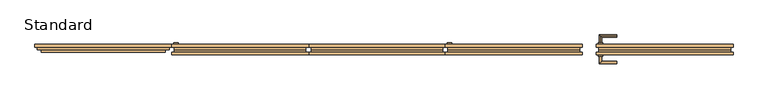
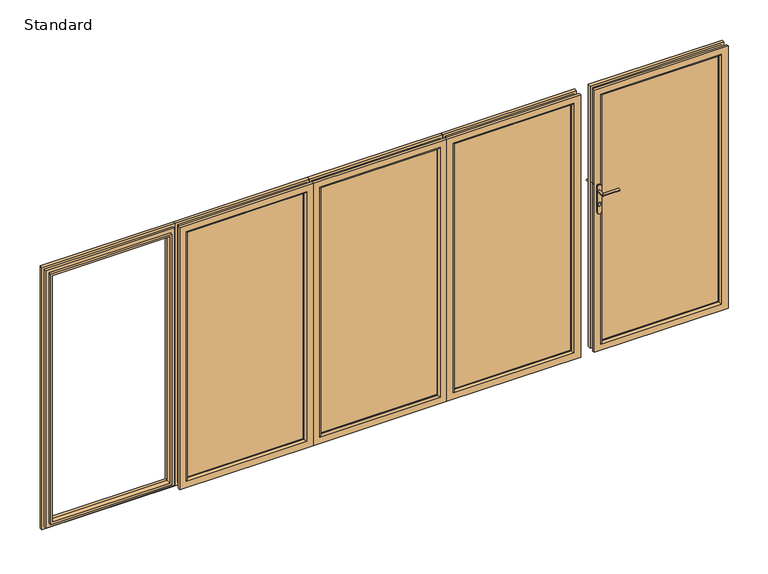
"""IFC4 building model written with IfcOpenShell, lengths in millimetres: door geometry, SMARTS_Visofold1000 : Standard."""

from ifc_helpers import new_model, si_unit, point, frame, frame_2d, origin, place, context, project, spatial, polyline, circle_curve, ellipse_curve, trimmed, segment, composite_curve, outline, extrude, faceted_brep, source, transform, mapped, element, save
from ifc_brep_helpers import plane_surface, cylinder_surface, advanced_brep


def standard_054a6557(model_context):
    return source(origin(), model_context, "Body", "SolidModel", [
        advanced_brep(
        [(1526.0, 75.0, 1232.5996413), (1526.0, 75.0, 1215.5996413), (1526.0, 130.0, 1215.5996413), (1526.0, 130.0, 1232.5996413), (1641.0, 130.0, 1232.5996413), (1641.0, 130.0, 1215.5996413)],
        [
            (0, 1, circle_curve(frame((1526.0, 75.0, 1224.0996413), z_axis=(0.0, -1.0, 0.0), x_axis=(0.0, 0.0, -1.0)), 8.5)),
            (1, 0, circle_curve(frame((1526.0, 75.0, 1224.0996413), z_axis=(0.0, -1.0, 0.0), x_axis=(0.0, 0.0, -1.0)), 8.5)),
            (1, 2),
            (2, 3, ellipse_curve(frame((1526.0, 130.0, 1224.0996413), z_axis=(-0.7071067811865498, -0.7071067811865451, 0.0), x_axis=(0.707106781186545, -0.70710678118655, 0.0)), 12.0208153, 8.5)),
            (3, 0),
            (3, 2, ellipse_curve(frame((1526.0, 130.0, 1224.0996413), z_axis=(-0.7071067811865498, -0.7071067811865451, 0.0), x_axis=(0.707106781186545, -0.70710678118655, 0.0)), 12.0208153, 8.5)),
            (4, 5, circle_curve(frame((1641.0, 130.0, 1224.0996413), z_axis=(1.0, 0.0, 0.0), x_axis=(0.0, 0.0, -1.0)), 8.5)),
            (5, 4, circle_curve(frame((1641.0, 130.0, 1224.0996413), z_axis=(1.0, 0.0, 0.0), x_axis=(0.0, 0.0, -1.0)), 8.5)),
            (2, 5),
            (4, 3),
        ],
        [
            plane_surface(frame((1526.0, 75.0, 1224.0996413), z_axis=(0.0, -1.0, 0.0), x_axis=(0.0, 0.0, -1.0))),
            cylinder_surface(frame((1526.0, 75.0, 1224.0996413), z_axis=(0.0, -1.0, 0.0), x_axis=(0.0, 0.0, -1.0)), 8.5),
            plane_surface(frame((1641.0, 130.0, 1224.0996413), z_axis=(1.0, 0.0, 0.0), x_axis=(0.0, 0.0, -1.0))),
            cylinder_surface(frame((1526.0, 130.0, 1224.0996413), z_axis=(-1.0, 0.0, 0.0), x_axis=(0.0, 0.0, -1.0)), 8.5),
        ],
        [
            (0, [[1, 2]]),
            (1, [[-2, 3, 4, 5]]),
            (1, [[-1, -5, 6, -3]]),
            (2, [[7, 8]]),
            (3, [[-4, 9, -7, 10]]),
            (3, [[-6, -10, -8, -9]]),
        ],
    ),
        extrude(outline(composite_curve([segment(trimmed(circle_curve(frame_2d((1258.0996413, 1526.0)), 16.0), [point((1258.0996413, 1542.0))], [point((1258.0996413, 1510.0))], False, "CARTESIAN"), True, "CONTINUOUS"), segment(polyline([(1258.0996413, 1510.0), (1070.0996413, 1510.0)]), True, "CONTINUOUS"), segment(trimmed(circle_curve(frame_2d((1070.0996413, 1526.0)), 16.0), [point((1070.0996413, 1510.0))], [point((1070.0996413, 1542.0))], False, "CARTESIAN"), True, "CONTINUOUS"), segment(polyline([(1070.0996413, 1542.0), (1258.0996413, 1542.0)]), True, "CONTINUOUS")], self_intersect=False)), frame((0.0, 75.0, 0.0), z_axis=(0.0, 1.0, 0.0), x_axis=(0.0, 0.0, 1.0)), (0.0, 0.0, 1.0), 10.0),
        advanced_brep(
        [(1534.5, 0.0, 1224.0996413), (1517.5, 0.0, 1224.0996413), (1534.5, -46.5, 1224.0996413), (1517.5, -63.5, 1224.0996413), (1641.0, -46.5, 1224.0996413), (1641.0, -63.5, 1224.0996413)],
        [
            (0, 1, circle_curve(frame((1526.0, 0.0, 1224.0996413), z_axis=(0.0, 1.0, 0.0), x_axis=(-1.0, 0.0, 0.0)), 8.5)),
            (1, 0, circle_curve(frame((1526.0, 0.0, 1224.0996413), z_axis=(0.0, 1.0, 0.0), x_axis=(-1.0, 0.0, 0.0)), 8.5)),
            (0, 2),
            (2, 3, ellipse_curve(frame((1526.0, -55.0, 1224.0996413), z_axis=(-0.7071067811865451, 0.7071067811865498, 0.0), x_axis=(0.7071067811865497, 0.7071067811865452, 0.0)), 12.0208153, 8.5)),
            (3, 1),
            (3, 2, ellipse_curve(frame((1526.0, -55.0, 1224.0996413), z_axis=(-0.7071067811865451, 0.7071067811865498, 0.0), x_axis=(0.7071067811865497, 0.7071067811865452, 0.0)), 12.0208153, 8.5)),
            (4, 5, circle_curve(frame((1641.0, -55.0, 1224.0996413), z_axis=(1.0, 0.0, 0.0), x_axis=(0.0, -1.0, 0.0)), 8.5)),
            (5, 4, circle_curve(frame((1641.0, -55.0, 1224.0996413), z_axis=(1.0, 0.0, 0.0), x_axis=(0.0, -1.0, 0.0)), 8.5)),
            (2, 4),
            (5, 3),
        ],
        [
            plane_surface(frame((1526.0, 0.0, 1224.0996413), z_axis=(0.0, 1.0, 0.0), x_axis=(0.0, 0.0, -1.0))),
            cylinder_surface(frame((1526.0, 0.0, 1224.0996413), z_axis=(0.0, 1.0, 0.0), x_axis=(-1.0, 0.0, 0.0)), 8.5),
            plane_surface(frame((1641.0, -55.0, 1224.0996413), z_axis=(1.0, 0.0, 0.0), x_axis=(0.0, 0.0, -1.0))),
            cylinder_surface(frame((1526.0, -55.0, 1224.0996413), z_axis=(-1.0, 0.0, 0.0), x_axis=(0.0, -1.0, 0.0)), 8.5),
        ],
        [
            (0, [[1, 2]]),
            (1, [[-1, 3, 4, 5]]),
            (1, [[-2, -5, 6, -3]]),
            (2, [[7, 8]]),
            (3, [[-4, 9, -8, 10]]),
            (3, [[-6, -10, -7, -9]]),
        ],
    ),
        extrude(outline(composite_curve([segment(trimmed(circle_curve(frame_2d((1258.0996413, 1526.0)), 16.0), [point((1258.0996413, 1542.0))], [point((1258.0996413, 1510.0))], False, "CARTESIAN"), True, "CONTINUOUS"), segment(polyline([(1258.0996413, 1510.0), (1070.0996413, 1510.0)]), True, "CONTINUOUS"), segment(trimmed(circle_curve(frame_2d((1070.0996413, 1526.0)), 16.0), [point((1070.0996413, 1510.0))], [point((1070.0996413, 1542.0))], False, "CARTESIAN"), True, "CONTINUOUS"), segment(polyline([(1070.0996413, 1542.0), (1258.0996413, 1542.0)]), True, "CONTINUOUS")], self_intersect=False)), frame((0.0, -10.0, 0.0), z_axis=(0.0, 1.0, 0.0), x_axis=(0.0, 0.0, 1.0)), (0.0, 0.0, 1.0), 10.0),
        extrude(outline(composite_curve([segment(trimmed(circle_curve(frame_2d((1132.0996413, 1526.0571906)), 8.5), [point((1125.1769586, 1530.9893771))], [point((1125.27562, 1520.9893771))], False, "CARTESIAN"), True, "CONTINUOUS"), segment(polyline([(1125.27562, 1520.9893771), (1117.5996413, 1520.9893771)]), True, "CONTINUOUS"), segment(trimmed(circle_curve(frame_2d((1117.5996413, 1525.9893771)), 5.0), [point((1117.5996413, 1520.9893771))], [point((1117.5996413, 1530.9893771))], False, "CARTESIAN"), True, "CONTINUOUS"), segment(polyline([(1117.5996413, 1530.9893771), (1125.1769586, 1530.9893771)]), True, "CONTINUOUS")], self_intersect=False)), frame((0.0, 85.0, 0.0), z_axis=(0.0, 1.0, 0.0), x_axis=(0.0, 0.0, 1.0)), (0.0, 0.0, 1.0), 2.0),
        extrude(outline(composite_curve([segment(trimmed(circle_curve(frame_2d((1132.0996413, 1526.0571906)), 8.5), [point((1125.1769586, 1530.9893771))], [point((1125.27562, 1520.9893771))], False, "CARTESIAN"), True, "CONTINUOUS"), segment(polyline([(1125.27562, 1520.9893771), (1117.5996413, 1520.9893771)]), True, "CONTINUOUS"), segment(trimmed(circle_curve(frame_2d((1117.5996413, 1525.9893771)), 5.0), [point((1117.5996413, 1520.9893771))], [point((1117.5996413, 1530.9893771))], False, "CARTESIAN"), True, "CONTINUOUS"), segment(polyline([(1117.5996413, 1530.9893771), (1125.1769586, 1530.9893771)]), True, "CONTINUOUS")], self_intersect=False)), frame((0.0, -12.0, 0.0), z_axis=(0.0, 1.0, 0.0), x_axis=(0.0, 0.0, 1.0)), (0.0, 0.0, 1.0), 2.0),
        extrude(outline(polyline([(45.0, 1541.0), (45.0, 2415.0), (1955.0, 2415.0), (1955.0, 1541.0), (45.0, 1541.0)]), holes=[polyline([(1939.5, 1556.5), (1939.5, 2399.5), (60.5, 2399.5), (60.5, 1556.5), (1939.5, 1556.5)])]), frame((0.0, 17.4, 0.0), z_axis=(0.0, 1.0, 0.0), x_axis=(0.0, 0.0, 1.0)), (0.0, 0.0, 1.0), 35.0),
        faceted_brep([(1496.0, 74.4, 0.0), (1496.0, 52.4, 0.0), (1496.0, 52.4, 2000.0), (1496.0, 74.4, 2000.0), (1556.5, 52.4, 60.5), (1556.5, 74.4, 60.5), (1556.5, 74.4, 1939.5), (1556.5, 52.4, 1939.5), (2460.0, 74.4, 0.0), (2460.0, 52.4, 0.0), (2460.0, 52.4, 2000.0), (2460.0, 74.4, 2000.0), (2399.5, 74.4, 1939.5), (2399.5, 52.4, 1939.5), (2399.5, 74.4, 60.5), (2399.5, 52.4, 60.5), (1513.8691481, 34.8, 17.8691481), (2442.1308519, 34.8, 17.8691481), (2442.1308519, 34.8, 1982.1308519), (1513.8691481, 34.8, 1982.1308519), (1541.0, 34.8, 1955.0), (2415.0, 34.8, 1955.0), (2415.0, 34.8, 45.0), (1541.0, 34.8, 45.0), (1513.8691481, 52.4, 17.8691481), (1513.8691481, 52.4, 1982.1308519), (1541.0, 52.4, 45.0), (1541.0, 52.4, 1955.0), (2442.1308519, 52.4, 1982.1308519), (2415.0, 52.4, 1955.0), (2442.1308519, 52.4, 17.8691481), (2415.0, 52.4, 45.0)], [[[0, 1, 2, 3]], [[4, 5, 6, 7]], [[8, 9, 1, 0]], [[3, 2, 10, 11]], [[7, 6, 12, 13]], [[11, 10, 9, 8]], [[13, 12, 14, 15]], [[3, 11, 8, 0], [5, 14, 12, 6]], [[15, 14, 5, 4]], [[16, 17, 18, 19], [20, 21, 22, 23]], [[24, 16, 19, 25]], [[23, 26, 27, 20]], [[25, 19, 18, 28]], [[20, 27, 29, 21]], [[28, 18, 17, 30]], [[21, 29, 31, 22]], [[30, 17, 16, 24]], [[1, 9, 10, 2], [25, 28, 30, 24]], [[26, 31, 29, 27], [7, 13, 15, 4]], [[22, 31, 26, 23]]]),
        advanced_brep(
        [(1556.5, 13.3, 60.5), (1556.5, 17.4, 60.5), (1556.5, 17.4, 1939.5), (1556.5, 13.3, 1939.5), (1496.0, 17.4, 0.0), (1496.0, 0.0, 0.0), (1496.0, 0.0, 2000.0), (1496.0, 17.4, 2000.0), (2399.5, 17.4, 1939.5), (2399.5, 13.3, 1939.5), (2460.0, 0.0, 2000.0), (2460.0, 17.4, 2000.0), (2399.5, 17.4, 60.5), (2399.5, 13.3, 60.5), (2460.0, 0.0, 0.0), (2460.0, 17.4, 0.0), (1543.2, 0.0, 1952.8), (2412.8, 0.0, 1952.8), (2412.8, 0.0, 47.2), (1543.2, 0.0, 47.2), (1513.8691481, 34.8, 17.8691481), (1513.8691481, 17.4, 17.8691481), (1513.8691481, 17.4, 1982.1308519), (1513.8691481, 34.8, 1982.1308519), (2442.1308519, 17.4, 1982.1308519), (2442.1308519, 34.8, 1982.1308519), (2442.1308519, 17.4, 17.8691481), (2442.1308519, 34.8, 17.8691481), (1541.0, 17.4, 45.0), (1541.0, 34.8, 45.0), (1541.0, 34.8, 1955.0), (1541.0, 17.4, 1955.0), (2415.0, 34.8, 1955.0), (2415.0, 17.4, 1955.0), (2415.0, 34.8, 45.0), (2415.0, 17.4, 45.0)],
        [
            (0, 1),
            (1, 2),
            (2, 3),
            (3, 0),
            (4, 5),
            (5, 6),
            (6, 7),
            (7, 4),
            (2, 8),
            (8, 9),
            (9, 3),
            (6, 10),
            (10, 11),
            (11, 7),
            (8, 12),
            (12, 13),
            (13, 9),
            (10, 14),
            (14, 15),
            (15, 11),
            (12, 1),
            (0, 13),
            (5, 14),
            (16, 17),
            (17, 18),
            (18, 19),
            (19, 16),
            (4, 15),
            (19, 0, ellipse_curve(frame((1543.2, 13.3, 47.2), z_axis=(-0.7071067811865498, 0.0, 0.7071067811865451), x_axis=(-0.7071067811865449, 0.0, -0.70710678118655)), 18.8090404, 13.3)),
            (3, 16, ellipse_curve(frame((1543.2, 13.3, 1952.8), z_axis=(-0.7071067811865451, 0.0, -0.70710678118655), x_axis=(0.7071067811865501, 0.0, -0.7071067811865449)), 18.8090404, 13.3)),
            (9, 17, ellipse_curve(frame((2412.8, 13.3, 1952.8), z_axis=(-0.7071067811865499, 0.0, 0.707106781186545), x_axis=(-0.7071067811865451, 0.0, -0.7071067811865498)), 18.8090404, 13.3)),
            (13, 18, ellipse_curve(frame((2412.8, 13.3, 47.2), z_axis=(0.7071067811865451, 0.0, 0.7071067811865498), x_axis=(-0.7071067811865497, 0.0, 0.7071067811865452)), 18.8090404, 13.3)),
            (20, 21),
            (21, 22),
            (22, 23),
            (23, 20),
            (22, 24),
            (24, 25),
            (25, 23),
            (24, 26),
            (26, 27),
            (27, 25),
            (21, 26),
            (20, 27),
            (28, 29),
            (29, 30),
            (30, 31),
            (31, 28),
            (30, 32),
            (32, 33),
            (33, 31),
            (32, 34),
            (34, 35),
            (35, 33),
            (34, 29),
            (28, 35),
        ],
        [
            plane_surface(frame((1556.5, 17.4, 60.5), z_axis=(1.0, 0.0, 0.0), x_axis=(0.0, 0.0, 1.0))),
            plane_surface(frame((1496.0, 0.0, 0.0), z_axis=(-1.0, 0.0, 0.0), x_axis=(0.0, 0.0, 1.0))),
            plane_surface(frame((1556.5, 17.4, 1939.5), z_axis=(0.0, 0.0, -1.0), x_axis=(1.0, 0.0, 0.0))),
            plane_surface(frame((1496.0, 0.0, 2000.0), z_axis=(0.0, 0.0, 1.0), x_axis=(1.0, 0.0, 0.0))),
            plane_surface(frame((2399.5, 17.4, 1939.5), z_axis=(-1.0, 0.0, 0.0), x_axis=(0.0, 0.0, -1.0))),
            plane_surface(frame((2460.0, 0.0, 2000.0), z_axis=(1.0, 0.0, 0.0), x_axis=(0.0, 0.0, -1.0))),
            plane_surface(frame((2399.5, 17.4, 60.5), z_axis=(0.0, 0.0, 1.0), x_axis=(-1.0, 0.0, 0.0))),
            plane_surface(frame((2412.8, 0.0, 47.2), z_axis=(0.0, -1.0, 0.0), x_axis=(-1.0, 0.0, 0.0))),
            plane_surface(frame((2460.0, 0.0, 0.0), z_axis=(0.0, 0.0, -1.0), x_axis=(-1.0, 0.0, 0.0))),
            cylinder_surface(frame((1543.2, 13.3, 0.0), z_axis=(0.0, 0.0, -1.0), x_axis=(0.0, 1.0, 0.0)), 13.3),
            cylinder_surface(frame((1496.0, 13.3, 1952.8), z_axis=(-1.0, 0.0, 0.0), x_axis=(0.0, 1.0, 0.0)), 13.3),
            cylinder_surface(frame((2412.8, 13.3, 2000.0), z_axis=(0.0, 0.0, 1.0), x_axis=(0.0, 1.0, 0.0)), 13.3),
            cylinder_surface(frame((2460.0, 13.3, 47.2), z_axis=(1.0, 0.0, 0.0), x_axis=(0.0, 1.0, 0.0)), 13.3),
            plane_surface(frame((1513.8691481, 17.4, 17.8691481), z_axis=(-1.0, 0.0, 0.0), x_axis=(0.0, 0.0, 1.0))),
            plane_surface(frame((1513.8691481, 17.4, 1982.1308519), z_axis=(0.0, 0.0, 1.0), x_axis=(1.0, 0.0, 0.0))),
            plane_surface(frame((2442.1308519, 17.4, 1982.1308519), z_axis=(1.0, 0.0, 0.0), x_axis=(0.0, 0.0, -1.0))),
            plane_surface(frame((2460.0, 17.4, 0.0), z_axis=(0.0, 1.0, 0.0), x_axis=(-1.0, 0.0, 0.0))),
            plane_surface(frame((2442.1308519, 17.4, 17.8691481), z_axis=(0.0, 0.0, -1.0), x_axis=(-1.0, 0.0, 0.0))),
            plane_surface(frame((1541.0, 34.8, 45.0), z_axis=(1.0, 0.0, 0.0), x_axis=(0.0, 0.0, 1.0))),
            plane_surface(frame((1541.0, 34.8, 1955.0), z_axis=(0.0, 0.0, -1.0), x_axis=(1.0, 0.0, 0.0))),
            plane_surface(frame((2415.0, 34.8, 1955.0), z_axis=(-1.0, 0.0, 0.0), x_axis=(0.0, 0.0, -1.0))),
            plane_surface(frame((2415.0, 34.8, 45.0), z_axis=(0.0, 0.0, 1.0), x_axis=(-1.0, 0.0, 0.0))),
            plane_surface(frame((2415.0, 17.4, 45.0), z_axis=(0.0, 1.0, 0.0), x_axis=(-1.0, 0.0, 0.0))),
            plane_surface(frame((2442.1308519, 34.8, 17.8691481), z_axis=(0.0, 1.0, 0.0), x_axis=(-1.0, 0.0, 0.0))),
        ],
        [
            (0, [[1, 2, 3, 4]]),
            (1, [[5, 6, 7, 8]]),
            (2, [[-3, 9, 10, 11]]),
            (3, [[-7, 12, 13, 14]]),
            (4, [[-10, 15, 16, 17]]),
            (5, [[-13, 18, 19, 20]]),
            (6, [[-16, 21, -1, 22]]),
            (7, [[23, -18, -12, -6], [24, 25, 26, 27]]),
            (8, [[-19, -23, -5, 28]]),
            (9, [[29, -4, 30, -27]]),
            (10, [[-30, -11, 31, -24]]),
            (11, [[-31, -17, 32, -25]]),
            (12, [[-32, -22, -29, -26]]),
            (13, [[33, 34, 35, 36]]),
            (14, [[-35, 37, 38, 39]]),
            (15, [[-38, 40, 41, 42]]),
            (16, [[-14, -20, -28, -8], [43, -40, -37, -34]]),
            (17, [[-41, -43, -33, 44]]),
            (18, [[45, 46, 47, 48]]),
            (19, [[-47, 49, 50, 51]]),
            (20, [[-50, 52, 53, 54]]),
            (21, [[-53, 55, -45, 56]]),
            (22, [[-51, -54, -56, -48], [-21, -15, -9, -2]]),
            (23, [[-39, -42, -44, -36], [-55, -52, -49, -46]]),
        ],
    ),
        extrude(outline(polyline([(1556.5, 50.1484783), (2399.5, 50.1484783), (2399.5, 21.4), (1556.5, 21.4), (1556.5, 50.1484783)])), frame((0.0, 0.0, 60.5), z_axis=(0.0, 0.0, 1.0), x_axis=(1.0, 0.0, 0.0)), (0.0, 0.0, 1.0), 1879.0),
        extrude(outline(composite_curve([segment(trimmed(circle_curve(frame_2d((1228.0996413, 462.0)), 16.0), [point((1228.0996413, 478.0))], [point((1228.0996413, 446.0))], False, "CARTESIAN"), True, "CONTINUOUS"), segment(polyline([(1228.0996413, 446.0), (1040.0996413, 446.0)]), True, "CONTINUOUS"), segment(trimmed(circle_curve(frame_2d((1040.0996413, 462.0)), 16.0), [point((1040.0996413, 446.0))], [point((1040.0996413, 478.0))], False, "CARTESIAN"), True, "CONTINUOUS"), segment(polyline([(1040.0996413, 478.0), (1228.0996413, 478.0)]), True, "CONTINUOUS")], self_intersect=False)), frame((0.0, 75.0, 0.0), z_axis=(0.0, 1.0, 0.0), x_axis=(0.0, 0.0, 1.0)), (0.0, 0.0, 1.0), 10.0),
        extrude(outline(polyline([(45.0, 477.0), (45.0, 1351.0), (1955.0, 1351.0), (1955.0, 477.0), (45.0, 477.0)]), holes=[polyline([(1939.5, 492.5), (1939.5, 1335.5), (60.5, 1335.5), (60.5, 492.5), (1939.5, 492.5)])]), frame((0.0, 17.4, 0.0), z_axis=(0.0, 1.0, 0.0), x_axis=(0.0, 0.0, 1.0)), (0.0, 0.0, 1.0), 35.0),
        faceted_brep([(432.0, 74.4, 0.0), (432.0, 52.4, 0.0), (432.0, 52.4, 2000.0), (432.0, 74.4, 2000.0), (492.5, 52.4, 60.5), (492.5, 74.4, 60.5), (492.5, 74.4, 1939.5), (492.5, 52.4, 1939.5), (1396.0, 52.4, 2000.0), (1396.0, 74.4, 2000.0), (1335.5, 74.4, 1939.5), (1335.5, 52.4, 1939.5), (1396.0, 52.4, 0.0), (1396.0, 74.4, 0.0), (1335.5, 74.4, 60.5), (1335.5, 52.4, 60.5), (449.8691481, 34.8, 17.8691481), (1378.1308519, 34.8, 17.8691481), (1378.1308519, 34.8, 1982.1308519), (449.8691481, 34.8, 1982.1308519), (477.0, 34.8, 1955.0), (1351.0, 34.8, 1955.0), (1351.0, 34.8, 45.0), (477.0, 34.8, 45.0), (449.8691481, 52.4, 17.8691481), (449.8691481, 52.4, 1982.1308519), (477.0, 52.4, 45.0), (477.0, 52.4, 1955.0), (1378.1308519, 52.4, 1982.1308519), (1351.0, 52.4, 1955.0), (1378.1308519, 52.4, 17.8691481), (1351.0, 52.4, 45.0)], [[[0, 1, 2, 3]], [[4, 5, 6, 7]], [[3, 2, 8, 9]], [[7, 6, 10, 11]], [[9, 8, 12, 13]], [[11, 10, 14, 15]], [[13, 12, 1, 0]], [[3, 9, 13, 0], [5, 14, 10, 6]], [[15, 14, 5, 4]], [[16, 17, 18, 19], [20, 21, 22, 23]], [[24, 16, 19, 25]], [[23, 26, 27, 20]], [[25, 19, 18, 28]], [[20, 27, 29, 21]], [[28, 18, 17, 30]], [[21, 29, 31, 22]], [[30, 17, 16, 24]], [[1, 12, 8, 2], [25, 28, 30, 24]], [[26, 31, 29, 27], [7, 11, 15, 4]], [[22, 31, 26, 23]]]),
        advanced_brep(
        [(492.5, 13.3, 60.5), (492.5, 17.4, 60.5), (492.5, 17.4, 1939.5), (492.5, 13.3, 1939.5), (432.0, 17.4, 0.0), (432.0, 0.0, 0.0), (432.0, 0.0, 2000.0), (432.0, 17.4, 2000.0), (1335.5, 17.4, 1939.5), (1335.5, 13.3, 1939.5), (1396.0, 0.0, 2000.0), (1396.0, 17.4, 2000.0), (1335.5, 17.4, 60.5), (1335.5, 13.3, 60.5), (1396.0, 0.0, 0.0), (1396.0, 17.4, 0.0), (479.2, 0.0, 1952.8), (1348.8, 0.0, 1952.8), (1348.8, 0.0, 47.2), (479.2, 0.0, 47.2), (449.8691481, 34.8, 17.8691481), (449.8691481, 17.4, 17.8691481), (449.8691481, 17.4, 1982.1308519), (449.8691481, 34.8, 1982.1308519), (1378.1308519, 17.4, 1982.1308519), (1378.1308519, 34.8, 1982.1308519), (1378.1308519, 17.4, 17.8691481), (1378.1308519, 34.8, 17.8691481), (477.0, 17.4, 45.0), (477.0, 34.8, 45.0), (477.0, 34.8, 1955.0), (477.0, 17.4, 1955.0), (1351.0, 34.8, 1955.0), (1351.0, 17.4, 1955.0), (1351.0, 34.8, 45.0), (1351.0, 17.4, 45.0)],
        [
            (0, 1),
            (1, 2),
            (2, 3),
            (3, 0),
            (4, 5),
            (5, 6),
            (6, 7),
            (7, 4),
            (2, 8),
            (8, 9),
            (9, 3),
            (6, 10),
            (10, 11),
            (11, 7),
            (8, 12),
            (12, 13),
            (13, 9),
            (10, 14),
            (14, 15),
            (15, 11),
            (12, 1),
            (0, 13),
            (5, 14),
            (16, 17),
            (17, 18),
            (18, 19),
            (19, 16),
            (4, 15),
            (19, 0, ellipse_curve(frame((479.2, 13.3, 47.2), z_axis=(-0.7071067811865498, 0.0, 0.7071067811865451), x_axis=(-0.7071067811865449, 0.0, -0.70710678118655)), 18.8090404, 13.3)),
            (3, 16, ellipse_curve(frame((479.2, 13.3, 1952.8), z_axis=(-0.7071067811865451, 0.0, -0.70710678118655), x_axis=(0.7071067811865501, 0.0, -0.7071067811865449)), 18.8090404, 13.3)),
            (9, 17, ellipse_curve(frame((1348.8, 13.3, 1952.8), z_axis=(-0.7071067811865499, 0.0, 0.707106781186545), x_axis=(-0.7071067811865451, 0.0, -0.7071067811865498)), 18.8090404, 13.3)),
            (13, 18, ellipse_curve(frame((1348.8, 13.3, 47.2), z_axis=(0.7071067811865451, 0.0, 0.7071067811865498), x_axis=(-0.7071067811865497, 0.0, 0.7071067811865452)), 18.8090404, 13.3)),
            (20, 21),
            (21, 22),
            (22, 23),
            (23, 20),
            (22, 24),
            (24, 25),
            (25, 23),
            (24, 26),
            (26, 27),
            (27, 25),
            (21, 26),
            (20, 27),
            (28, 29),
            (29, 30),
            (30, 31),
            (31, 28),
            (30, 32),
            (32, 33),
            (33, 31),
            (32, 34),
            (34, 35),
            (35, 33),
            (34, 29),
            (28, 35),
        ],
        [
            plane_surface(frame((492.5, 17.4, 60.5), z_axis=(1.0, 0.0, 0.0), x_axis=(0.0, 0.0, 1.0))),
            plane_surface(frame((432.0, 0.0, 0.0), z_axis=(-1.0, 0.0, 0.0), x_axis=(0.0, 0.0, 1.0))),
            plane_surface(frame((492.5, 17.4, 1939.5), z_axis=(0.0, 0.0, -1.0), x_axis=(1.0, 0.0, 0.0))),
            plane_surface(frame((432.0, 0.0, 2000.0), z_axis=(0.0, 0.0, 1.0), x_axis=(1.0, 0.0, 0.0))),
            plane_surface(frame((1335.5, 17.4, 1939.5), z_axis=(-1.0, 0.0, 0.0), x_axis=(0.0, 0.0, -1.0))),
            plane_surface(frame((1396.0, 0.0, 2000.0), z_axis=(1.0, 0.0, 0.0), x_axis=(0.0, 0.0, -1.0))),
            plane_surface(frame((1335.5, 17.4, 60.5), z_axis=(0.0, 0.0, 1.0), x_axis=(-1.0, 0.0, 0.0))),
            plane_surface(frame((1348.8, 0.0, 47.2), z_axis=(0.0, -1.0, 0.0), x_axis=(-1.0, 0.0, 0.0))),
            plane_surface(frame((1396.0, 0.0, 0.0), z_axis=(0.0, 0.0, -1.0), x_axis=(-1.0, 0.0, 0.0))),
            cylinder_surface(frame((479.2, 13.3, 0.0), z_axis=(0.0, 0.0, -1.0), x_axis=(0.0, 1.0, 0.0)), 13.3),
            cylinder_surface(frame((432.0, 13.3, 1952.8), z_axis=(-1.0, 0.0, 0.0), x_axis=(0.0, 1.0, 0.0)), 13.3),
            cylinder_surface(frame((1348.8, 13.3, 2000.0), z_axis=(0.0, 0.0, 1.0), x_axis=(0.0, 1.0, 0.0)), 13.3),
            cylinder_surface(frame((1396.0, 13.3, 47.2), z_axis=(1.0, 0.0, 0.0), x_axis=(0.0, 1.0, 0.0)), 13.3),
            plane_surface(frame((449.8691481, 17.4, 17.8691481), z_axis=(-1.0, 0.0, 0.0), x_axis=(0.0, 0.0, 1.0))),
            plane_surface(frame((449.8691481, 17.4, 1982.1308519), z_axis=(0.0, 0.0, 1.0), x_axis=(1.0, 0.0, 0.0))),
            plane_surface(frame((1378.1308519, 17.4, 1982.1308519), z_axis=(1.0, 0.0, 0.0), x_axis=(0.0, 0.0, -1.0))),
            plane_surface(frame((1396.0, 17.4, 0.0), z_axis=(0.0, 1.0, 0.0), x_axis=(-1.0, 0.0, 0.0))),
            plane_surface(frame((1378.1308519, 17.4, 17.8691481), z_axis=(0.0, 0.0, -1.0), x_axis=(-1.0, 0.0, 0.0))),
            plane_surface(frame((477.0, 34.8, 45.0), z_axis=(1.0, 0.0, 0.0), x_axis=(0.0, 0.0, 1.0))),
            plane_surface(frame((477.0, 34.8, 1955.0), z_axis=(0.0, 0.0, -1.0), x_axis=(1.0, 0.0, 0.0))),
            plane_surface(frame((1351.0, 34.8, 1955.0), z_axis=(-1.0, 0.0, 0.0), x_axis=(0.0, 0.0, -1.0))),
            plane_surface(frame((1351.0, 34.8, 45.0), z_axis=(0.0, 0.0, 1.0), x_axis=(-1.0, 0.0, 0.0))),
            plane_surface(frame((1351.0, 17.4, 45.0), z_axis=(0.0, 1.0, 0.0), x_axis=(-1.0, 0.0, 0.0))),
            plane_surface(frame((1378.1308519, 34.8, 17.8691481), z_axis=(0.0, 1.0, 0.0), x_axis=(-1.0, 0.0, 0.0))),
        ],
        [
            (0, [[1, 2, 3, 4]]),
            (1, [[5, 6, 7, 8]]),
            (2, [[-3, 9, 10, 11]]),
            (3, [[-7, 12, 13, 14]]),
            (4, [[-10, 15, 16, 17]]),
            (5, [[-13, 18, 19, 20]]),
            (6, [[-16, 21, -1, 22]]),
            (7, [[23, -18, -12, -6], [24, 25, 26, 27]]),
            (8, [[-19, -23, -5, 28]]),
            (9, [[29, -4, 30, -27]]),
            (10, [[-30, -11, 31, -24]]),
            (11, [[-31, -17, 32, -25]]),
            (12, [[-32, -22, -29, -26]]),
            (13, [[33, 34, 35, 36]]),
            (14, [[-35, 37, 38, 39]]),
            (15, [[-38, 40, 41, 42]]),
            (16, [[-14, -20, -28, -8], [43, -40, -37, -34]]),
            (17, [[-41, -43, -33, 44]]),
            (18, [[45, 46, 47, 48]]),
            (19, [[-47, 49, 50, 51]]),
            (20, [[-50, 52, 53, 54]]),
            (21, [[-53, 55, -45, 56]]),
            (22, [[-51, -54, -56, -48], [-21, -15, -9, -2]]),
            (23, [[-39, -42, -44, -36], [-55, -52, -49, -46]]),
        ],
    ),
        extrude(outline(polyline([(492.5, 50.1484783), (1335.5, 50.1484783), (1335.5, 21.4), (492.5, 21.4), (492.5, 50.1484783)])), frame((0.0, 0.0, 60.5), z_axis=(0.0, 0.0, 1.0), x_axis=(1.0, 0.0, 0.0)), (0.0, 0.0, 1.0), 1879.0),
        extrude(outline(composite_curve([segment(trimmed(circle_curve(frame_2d((1228.0996413, -1466.0)), 16.0), [point((1228.0996413, -1450.0))], [point((1228.0996413, -1482.0))], False, "CARTESIAN"), True, "CONTINUOUS"), segment(polyline([(1228.0996413, -1482.0), (1040.0996413, -1482.0)]), True, "CONTINUOUS"), segment(trimmed(circle_curve(frame_2d((1040.0996413, -1466.0)), 16.0), [point((1040.0996413, -1482.0))], [point((1040.0996413, -1450.0))], False, "CARTESIAN"), True, "CONTINUOUS"), segment(polyline([(1040.0996413, -1450.0), (1228.0996413, -1450.0)]), True, "CONTINUOUS")], self_intersect=False)), frame((0.0, 75.0, 0.0), z_axis=(0.0, 1.0, 0.0), x_axis=(0.0, 0.0, 1.0)), (0.0, 0.0, 1.0), 10.0),
        extrude(outline(polyline([(45.0, -1451.0), (45.0, -577.0), (1955.0, -577.0), (1955.0, -1451.0), (45.0, -1451.0)]), holes=[polyline([(1939.5, -1435.5), (1939.5, -592.5), (60.5, -592.5), (60.5, -1435.5), (1939.5, -1435.5)])]), frame((0.0, 17.4, 0.0), z_axis=(0.0, 1.0, 0.0), x_axis=(0.0, 0.0, 1.0)), (0.0, 0.0, 1.0), 35.0),
        faceted_brep([(-1496.0, 74.4, 0.0), (-1496.0, 52.4, 0.0), (-1496.0, 52.4, 2000.0), (-1496.0, 74.4, 2000.0), (-1435.5, 52.4, 60.5), (-1435.5, 74.4, 60.5), (-1435.5, 74.4, 1939.5), (-1435.5, 52.4, 1939.5), (-532.0, 52.4, 2000.0), (-532.0, 74.4, 2000.0), (-592.5, 74.4, 1939.5), (-592.5, 52.4, 1939.5), (-532.0, 52.4, 0.0), (-532.0, 74.4, 0.0), (-592.5, 74.4, 60.5), (-592.5, 52.4, 60.5), (-1478.1308519, 34.8, 17.8691481), (-549.8691481, 34.8, 17.8691481), (-549.8691481, 34.8, 1982.1308519), (-1478.1308519, 34.8, 1982.1308519), (-1451.0, 34.8, 1955.0), (-577.0, 34.8, 1955.0), (-577.0, 34.8, 45.0), (-1451.0, 34.8, 45.0), (-1478.1308519, 52.4, 17.8691481), (-1478.1308519, 52.4, 1982.1308519), (-1451.0, 52.4, 45.0), (-1451.0, 52.4, 1955.0), (-549.8691481, 52.4, 1982.1308519), (-577.0, 52.4, 1955.0), (-549.8691481, 52.4, 17.8691481), (-577.0, 52.4, 45.0)], [[[0, 1, 2, 3]], [[4, 5, 6, 7]], [[3, 2, 8, 9]], [[7, 6, 10, 11]], [[9, 8, 12, 13]], [[11, 10, 14, 15]], [[13, 12, 1, 0]], [[3, 9, 13, 0], [5, 14, 10, 6]], [[15, 14, 5, 4]], [[16, 17, 18, 19], [20, 21, 22, 23]], [[24, 16, 19, 25]], [[23, 26, 27, 20]], [[25, 19, 18, 28]], [[20, 27, 29, 21]], [[28, 18, 17, 30]], [[21, 29, 31, 22]], [[30, 17, 16, 24]], [[1, 12, 8, 2], [25, 28, 30, 24]], [[26, 31, 29, 27], [7, 11, 15, 4]], [[22, 31, 26, 23]]]),
        advanced_brep(
        [(-1435.5, 13.3, 60.5), (-1435.5, 17.4, 60.5), (-1435.5, 17.4, 1939.5), (-1435.5, 13.3, 1939.5), (-1496.0, 17.4, 0.0), (-1496.0, 0.0, 0.0), (-1496.0, 0.0, 2000.0), (-1496.0, 17.4, 2000.0), (-592.5, 17.4, 1939.5), (-592.5, 13.3, 1939.5), (-532.0, 0.0, 2000.0), (-532.0, 17.4, 2000.0), (-592.5, 17.4, 60.5), (-592.5, 13.3, 60.5), (-532.0, 0.0, 0.0), (-532.0, 17.4, 0.0), (-1448.8, 0.0, 1952.8), (-579.2, 0.0, 1952.8), (-579.2, 0.0, 47.2), (-1448.8, 0.0, 47.2), (-1478.1308519, 34.8, 17.8691481), (-1478.1308519, 17.4, 17.8691481), (-1478.1308519, 17.4, 1982.1308519), (-1478.1308519, 34.8, 1982.1308519), (-549.8691481, 17.4, 1982.1308519), (-549.8691481, 34.8, 1982.1308519), (-549.8691481, 17.4, 17.8691481), (-549.8691481, 34.8, 17.8691481), (-1451.0, 17.4, 45.0), (-1451.0, 34.8, 45.0), (-1451.0, 34.8, 1955.0), (-1451.0, 17.4, 1955.0), (-577.0, 34.8, 1955.0), (-577.0, 17.4, 1955.0), (-577.0, 34.8, 45.0), (-577.0, 17.4, 45.0)],
        [
            (0, 1),
            (1, 2),
            (2, 3),
            (3, 0),
            (4, 5),
            (5, 6),
            (6, 7),
            (7, 4),
            (2, 8),
            (8, 9),
            (9, 3),
            (6, 10),
            (10, 11),
            (11, 7),
            (8, 12),
            (12, 13),
            (13, 9),
            (10, 14),
            (14, 15),
            (15, 11),
            (12, 1),
            (0, 13),
            (5, 14),
            (16, 17),
            (17, 18),
            (18, 19),
            (19, 16),
            (4, 15),
            (19, 0, ellipse_curve(frame((-1448.8, 13.3, 47.2), z_axis=(-0.7071067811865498, 0.0, 0.7071067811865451), x_axis=(-0.7071067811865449, 0.0, -0.70710678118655)), 18.8090404, 13.3)),
            (3, 16, ellipse_curve(frame((-1448.8, 13.3, 1952.8), z_axis=(-0.7071067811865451, 0.0, -0.70710678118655), x_axis=(0.7071067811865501, 0.0, -0.7071067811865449)), 18.8090404, 13.3)),
            (9, 17, ellipse_curve(frame((-579.2, 13.3, 1952.8), z_axis=(-0.7071067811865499, 0.0, 0.707106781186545), x_axis=(-0.7071067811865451, 0.0, -0.7071067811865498)), 18.8090404, 13.3)),
            (13, 18, ellipse_curve(frame((-579.2, 13.3, 47.2), z_axis=(0.7071067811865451, 0.0, 0.7071067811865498), x_axis=(-0.7071067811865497, 0.0, 0.7071067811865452)), 18.8090404, 13.3)),
            (20, 21),
            (21, 22),
            (22, 23),
            (23, 20),
            (22, 24),
            (24, 25),
            (25, 23),
            (24, 26),
            (26, 27),
            (27, 25),
            (21, 26),
            (20, 27),
            (28, 29),
            (29, 30),
            (30, 31),
            (31, 28),
            (30, 32),
            (32, 33),
            (33, 31),
            (32, 34),
            (34, 35),
            (35, 33),
            (34, 29),
            (28, 35),
        ],
        [
            plane_surface(frame((-1435.5, 17.4, 60.5), z_axis=(1.0, 0.0, 0.0), x_axis=(0.0, 0.0, 1.0))),
            plane_surface(frame((-1496.0, 0.0, 0.0), z_axis=(-1.0, 0.0, 0.0), x_axis=(0.0, 0.0, 1.0))),
            plane_surface(frame((-1435.5, 17.4, 1939.5), z_axis=(0.0, 0.0, -1.0), x_axis=(1.0, 0.0, 0.0))),
            plane_surface(frame((-1496.0, 0.0, 2000.0), z_axis=(0.0, 0.0, 1.0), x_axis=(1.0, 0.0, 0.0))),
            plane_surface(frame((-592.5, 17.4, 1939.5), z_axis=(-1.0, 0.0, 0.0), x_axis=(0.0, 0.0, -1.0))),
            plane_surface(frame((-532.0, 0.0, 2000.0), z_axis=(1.0, 0.0, 0.0), x_axis=(0.0, 0.0, -1.0))),
            plane_surface(frame((-592.5, 17.4, 60.5), z_axis=(0.0, 0.0, 1.0), x_axis=(-1.0, 0.0, 0.0))),
            plane_surface(frame((-579.2, 0.0, 47.2), z_axis=(0.0, -1.0, 0.0), x_axis=(-1.0, 0.0, 0.0))),
            plane_surface(frame((-532.0, 0.0, 0.0), z_axis=(0.0, 0.0, -1.0), x_axis=(-1.0, 0.0, 0.0))),
            cylinder_surface(frame((-1448.8, 13.3, 0.0), z_axis=(0.0, 0.0, -1.0), x_axis=(0.0, 1.0, 0.0)), 13.3),
            cylinder_surface(frame((-1496.0, 13.3, 1952.8), z_axis=(-1.0, 0.0, 0.0), x_axis=(0.0, 1.0, 0.0)), 13.3),
            cylinder_surface(frame((-579.2, 13.3, 2000.0), z_axis=(0.0, 0.0, 1.0), x_axis=(0.0, 1.0, 0.0)), 13.3),
            cylinder_surface(frame((-532.0, 13.3, 47.2), z_axis=(1.0, 0.0, 0.0), x_axis=(0.0, 1.0, 0.0)), 13.3),
            plane_surface(frame((-1478.1308519, 17.4, 17.8691481), z_axis=(-1.0, 0.0, 0.0), x_axis=(0.0, 0.0, 1.0))),
            plane_surface(frame((-1478.1308519, 17.4, 1982.1308519), z_axis=(0.0, 0.0, 1.0), x_axis=(1.0, 0.0, 0.0))),
            plane_surface(frame((-549.8691481, 17.4, 1982.1308519), z_axis=(1.0, 0.0, 0.0), x_axis=(0.0, 0.0, -1.0))),
            plane_surface(frame((-532.0, 17.4, 0.0), z_axis=(0.0, 1.0, 0.0), x_axis=(-1.0, 0.0, 0.0))),
            plane_surface(frame((-549.8691481, 17.4, 17.8691481), z_axis=(0.0, 0.0, -1.0), x_axis=(-1.0, 0.0, 0.0))),
            plane_surface(frame((-1451.0, 34.8, 45.0), z_axis=(1.0, 0.0, 0.0), x_axis=(0.0, 0.0, 1.0))),
            plane_surface(frame((-1451.0, 34.8, 1955.0), z_axis=(0.0, 0.0, -1.0), x_axis=(1.0, 0.0, 0.0))),
            plane_surface(frame((-577.0, 34.8, 1955.0), z_axis=(-1.0, 0.0, 0.0), x_axis=(0.0, 0.0, -1.0))),
            plane_surface(frame((-577.0, 34.8, 45.0), z_axis=(0.0, 0.0, 1.0), x_axis=(-1.0, 0.0, 0.0))),
            plane_surface(frame((-577.0, 17.4, 45.0), z_axis=(0.0, 1.0, 0.0), x_axis=(-1.0, 0.0, 0.0))),
            plane_surface(frame((-549.8691481, 34.8, 17.8691481), z_axis=(0.0, 1.0, 0.0), x_axis=(-1.0, 0.0, 0.0))),
        ],
        [
            (0, [[1, 2, 3, 4]]),
            (1, [[5, 6, 7, 8]]),
            (2, [[-3, 9, 10, 11]]),
            (3, [[-7, 12, 13, 14]]),
            (4, [[-10, 15, 16, 17]]),
            (5, [[-13, 18, 19, 20]]),
            (6, [[-16, 21, -1, 22]]),
            (7, [[23, -18, -12, -6], [24, 25, 26, 27]]),
            (8, [[-19, -23, -5, 28]]),
            (9, [[29, -4, 30, -27]]),
            (10, [[-30, -11, 31, -24]]),
            (11, [[-31, -17, 32, -25]]),
            (12, [[-32, -22, -29, -26]]),
            (13, [[33, 34, 35, 36]]),
            (14, [[-35, 37, 38, 39]]),
            (15, [[-38, 40, 41, 42]]),
            (16, [[-14, -20, -28, -8], [43, -40, -37, -34]]),
            (17, [[-41, -43, -33, 44]]),
            (18, [[45, 46, 47, 48]]),
            (19, [[-47, 49, 50, 51]]),
            (20, [[-50, 52, 53, 54]]),
            (21, [[-53, 55, -45, 56]]),
            (22, [[-51, -54, -56, -48], [-21, -15, -9, -2]]),
            (23, [[-39, -42, -44, -36], [-55, -52, -49, -46]]),
        ],
    ),
        extrude(outline(polyline([(-1435.5, 50.1484783), (-592.5, 50.1484783), (-592.5, 21.4), (-1435.5, 21.4), (-1435.5, 50.1484783)])), frame((0.0, 0.0, 60.5), z_axis=(0.0, 0.0, 1.0), x_axis=(1.0, 0.0, 0.0)), (0.0, 0.0, 1.0), 1879.0),
        extrude(outline(polyline([(45.0, 387.0), (1955.0, 387.0), (1955.0, -487.0), (45.0, -487.0), (45.0, 387.0)]), holes=[polyline([(1939.5, 371.5), (60.5, 371.5), (60.5, -471.5), (1939.5, -471.5), (1939.5, 371.5)])]), frame((0.0, 17.4, 0.0), z_axis=(0.0, 1.0, 0.0), x_axis=(0.0, 0.0, 1.0)), (0.0, 0.0, 1.0), 35.0),
        faceted_brep([(432.0, 74.4, 0.0), (432.0, 74.4, 2000.0), (432.0, 52.4, 2000.0), (432.0, 52.4, 0.0), (371.5, 52.4, 60.5), (371.5, 52.4, 1939.5), (371.5, 74.4, 1939.5), (371.5, 74.4, 60.5), (-532.0, 74.4, 2000.0), (-532.0, 52.4, 2000.0), (-471.5, 52.4, 1939.5), (-471.5, 74.4, 1939.5), (-532.0, 74.4, 0.0), (-532.0, 52.4, 0.0), (-471.5, 52.4, 60.5), (-471.5, 74.4, 60.5), (414.1308519, 34.8, 17.8691481), (414.1308519, 34.8, 1982.1308519), (-514.1308519, 34.8, 1982.1308519), (-514.1308519, 34.8, 17.8691481), (387.0, 34.8, 1955.0), (387.0, 34.8, 45.0), (-487.0, 34.8, 45.0), (-487.0, 34.8, 1955.0), (414.1308519, 52.4, 17.8691481), (414.1308519, 52.4, 1982.1308519), (387.0, 52.4, 1955.0), (387.0, 52.4, 45.0), (-514.1308519, 52.4, 1982.1308519), (-487.0, 52.4, 1955.0), (-514.1308519, 52.4, 17.8691481), (-487.0, 52.4, 45.0)], [[[0, 1, 2, 3]], [[4, 5, 6, 7]], [[1, 8, 9, 2]], [[5, 10, 11, 6]], [[8, 12, 13, 9]], [[10, 14, 15, 11]], [[12, 0, 3, 13]], [[1, 0, 12, 8], [7, 6, 11, 15]], [[14, 4, 7, 15]], [[16, 17, 18, 19], [20, 21, 22, 23]], [[24, 25, 17, 16]], [[21, 20, 26, 27]], [[25, 28, 18, 17]], [[20, 23, 29, 26]], [[28, 30, 19, 18]], [[23, 22, 31, 29]], [[30, 24, 16, 19]], [[3, 2, 9, 13], [25, 24, 30, 28]], [[27, 26, 29, 31], [5, 4, 14, 10]], [[22, 21, 27, 31]]]),
        advanced_brep(
        [(371.5, 13.3, 60.5), (371.5, 13.3, 1939.5), (371.5, 17.4, 1939.5), (371.5, 17.4, 60.5), (432.0, 17.4, 0.0), (432.0, 17.4, 2000.0), (432.0, 0.0, 2000.0), (432.0, 0.0, 0.0), (-471.5, 13.3, 1939.5), (-471.5, 17.4, 1939.5), (-532.0, 17.4, 2000.0), (-532.0, 0.0, 2000.0), (-471.5, 13.3, 60.5), (-471.5, 17.4, 60.5), (-532.0, 17.4, 0.0), (-532.0, 0.0, 0.0), (384.8, 0.0, 1952.8), (384.8, 0.0, 47.2), (-484.8, 0.0, 47.2), (-484.8, 0.0, 1952.8), (414.1308519, 34.8, 17.8691481), (414.1308519, 34.8, 1982.1308519), (414.1308519, 17.4, 1982.1308519), (414.1308519, 17.4, 17.8691481), (-514.1308519, 34.8, 1982.1308519), (-514.1308519, 17.4, 1982.1308519), (-514.1308519, 34.8, 17.8691481), (-514.1308519, 17.4, 17.8691481), (387.0, 17.4, 45.0), (387.0, 17.4, 1955.0), (387.0, 34.8, 1955.0), (387.0, 34.8, 45.0), (-487.0, 17.4, 1955.0), (-487.0, 34.8, 1955.0), (-487.0, 17.4, 45.0), (-487.0, 34.8, 45.0)],
        [
            (0, 1),
            (1, 2),
            (2, 3),
            (3, 0),
            (4, 5),
            (5, 6),
            (6, 7),
            (7, 4),
            (1, 8),
            (8, 9),
            (9, 2),
            (5, 10),
            (10, 11),
            (11, 6),
            (8, 12),
            (12, 13),
            (13, 9),
            (10, 14),
            (14, 15),
            (15, 11),
            (12, 0),
            (3, 13),
            (15, 7),
            (16, 17),
            (17, 18),
            (18, 19),
            (19, 16),
            (14, 4),
            (16, 1, ellipse_curve(frame((384.8, 13.3, 1952.8), z_axis=(0.7071067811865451, 0.0, -0.70710678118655), x_axis=(-0.7071067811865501, 0.0, -0.7071067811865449)), 18.8090404, 13.3)),
            (0, 17, ellipse_curve(frame((384.8, 13.3, 47.2), z_axis=(0.7071067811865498, 0.0, 0.7071067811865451), x_axis=(0.7071067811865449, 0.0, -0.70710678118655)), 18.8090404, 13.3)),
            (19, 8, ellipse_curve(frame((-484.8, 13.3, 1952.8), z_axis=(0.7071067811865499, 0.0, 0.707106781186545), x_axis=(0.7071067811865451, 0.0, -0.7071067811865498)), 18.8090404, 13.3)),
            (18, 12, ellipse_curve(frame((-484.8, 13.3, 47.2), z_axis=(-0.7071067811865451, 0.0, 0.7071067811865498), x_axis=(0.7071067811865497, 0.0, 0.7071067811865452)), 18.8090404, 13.3)),
            (20, 21),
            (21, 22),
            (22, 23),
            (23, 20),
            (21, 24),
            (24, 25),
            (25, 22),
            (24, 26),
            (26, 27),
            (27, 25),
            (27, 23),
            (26, 20),
            (28, 29),
            (29, 30),
            (30, 31),
            (31, 28),
            (29, 32),
            (32, 33),
            (33, 30),
            (32, 34),
            (34, 35),
            (35, 33),
            (34, 28),
            (31, 35),
        ],
        [
            plane_surface(frame((371.5, 17.4, 60.5), z_axis=(-1.0, 0.0, 0.0), x_axis=(0.0, 0.0, 1.0))),
            plane_surface(frame((432.0, 0.0, 0.0), z_axis=(1.0, 0.0, 0.0), x_axis=(0.0, 0.0, 1.0))),
            plane_surface(frame((371.5, 17.4, 1939.5), z_axis=(0.0, 0.0, -1.0), x_axis=(-1.0, 0.0, 0.0))),
            plane_surface(frame((432.0, 0.0, 2000.0), z_axis=(0.0, 0.0, 1.0), x_axis=(-1.0, 0.0, 0.0))),
            plane_surface(frame((-471.5, 17.4, 1939.5), z_axis=(1.0, 0.0, 0.0), x_axis=(0.0, 0.0, -1.0))),
            plane_surface(frame((-532.0, 0.0, 2000.0), z_axis=(-1.0, 0.0, 0.0), x_axis=(0.0, 0.0, -1.0))),
            plane_surface(frame((-471.5, 17.4, 60.5), z_axis=(0.0, 0.0, 1.0), x_axis=(1.0, 0.0, 0.0))),
            plane_surface(frame((-484.8, 0.0, 47.2), z_axis=(0.0, -1.0, 0.0), x_axis=(1.0, 0.0, 0.0))),
            plane_surface(frame((-532.0, 0.0, 0.0), z_axis=(0.0, 0.0, -1.0), x_axis=(1.0, 0.0, 0.0))),
            cylinder_surface(frame((384.8, 13.3, 0.0), z_axis=(0.0, 0.0, -1.0), x_axis=(0.0, 1.0, 0.0)), 13.3),
            cylinder_surface(frame((432.0, 13.3, 1952.8), z_axis=(1.0, 0.0, 0.0), x_axis=(0.0, 1.0, 0.0)), 13.3),
            cylinder_surface(frame((-484.8, 13.3, 2000.0), z_axis=(0.0, 0.0, 1.0), x_axis=(0.0, 1.0, 0.0)), 13.3),
            cylinder_surface(frame((-532.0, 13.3, 47.2), z_axis=(-1.0, 0.0, 0.0), x_axis=(0.0, 1.0, 0.0)), 13.3),
            plane_surface(frame((414.1308519, 17.4, 17.8691481), z_axis=(1.0, 0.0, 0.0), x_axis=(0.0, 0.0, 1.0))),
            plane_surface(frame((414.1308519, 17.4, 1982.1308519), z_axis=(0.0, 0.0, 1.0), x_axis=(-1.0, 0.0, 0.0))),
            plane_surface(frame((-514.1308519, 17.4, 1982.1308519), z_axis=(-1.0, 0.0, 0.0), x_axis=(0.0, 0.0, -1.0))),
            plane_surface(frame((-532.0, 17.4, 0.0), z_axis=(0.0, 1.0, 0.0), x_axis=(1.0, 0.0, 0.0))),
            plane_surface(frame((-514.1308519, 17.4, 17.8691481), z_axis=(0.0, 0.0, -1.0), x_axis=(1.0, 0.0, 0.0))),
            plane_surface(frame((387.0, 34.8, 45.0), z_axis=(-1.0, 0.0, 0.0), x_axis=(0.0, 0.0, 1.0))),
            plane_surface(frame((387.0, 34.8, 1955.0), z_axis=(0.0, 0.0, -1.0), x_axis=(-1.0, 0.0, 0.0))),
            plane_surface(frame((-487.0, 34.8, 1955.0), z_axis=(1.0, 0.0, 0.0), x_axis=(0.0, 0.0, -1.0))),
            plane_surface(frame((-487.0, 34.8, 45.0), z_axis=(0.0, 0.0, 1.0), x_axis=(1.0, 0.0, 0.0))),
            plane_surface(frame((-487.0, 17.4, 45.0), z_axis=(0.0, 1.0, 0.0), x_axis=(1.0, 0.0, 0.0))),
            plane_surface(frame((-514.1308519, 34.8, 17.8691481), z_axis=(0.0, 1.0, 0.0), x_axis=(1.0, 0.0, 0.0))),
        ],
        [
            (0, [[1, 2, 3, 4]]),
            (1, [[5, 6, 7, 8]]),
            (2, [[9, 10, 11, -2]]),
            (3, [[12, 13, 14, -6]]),
            (4, [[15, 16, 17, -10]]),
            (5, [[18, 19, 20, -13]]),
            (6, [[21, -4, 22, -16]]),
            (7, [[-7, -14, -20, 23], [24, 25, 26, 27]]),
            (8, [[28, -8, -23, -19]]),
            (9, [[-24, 29, -1, 30]]),
            (10, [[-27, 31, -9, -29]]),
            (11, [[-26, 32, -15, -31]]),
            (12, [[-25, -30, -21, -32]]),
            (13, [[33, 34, 35, 36]]),
            (14, [[37, 38, 39, -34]]),
            (15, [[40, 41, 42, -38]]),
            (16, [[-5, -28, -18, -12], [-35, -39, -42, 43]]),
            (17, [[44, -36, -43, -41]]),
            (18, [[45, 46, 47, 48]]),
            (19, [[49, 50, 51, -46]]),
            (20, [[52, 53, 54, -50]]),
            (21, [[55, -48, 56, -53]]),
            (22, [[-45, -55, -52, -49], [-3, -11, -17, -22]]),
            (23, [[-33, -44, -40, -37], [-47, -51, -54, -56]]),
        ],
    ),
        extrude(outline(polyline([(371.5, 50.1484783), (371.5, 21.4), (-471.5, 21.4), (-471.5, 50.1484783), (371.5, 50.1484783)])), frame((0.0, 0.0, 60.5), z_axis=(0.0, 0.0, 1.0), x_axis=(1.0, 0.0, 0.0)), (0.0, 0.0, 1.0), 1879.0),
        extrude(outline(polyline([(45.0, -1541.0), (1955.0, -1541.0), (1955.0, -2415.0), (45.0, -2415.0), (45.0, -1541.0)]), holes=[polyline([(1939.5, -1556.5), (60.5, -1556.5), (60.5, -2399.5), (1939.5, -2399.5), (1939.5, -1556.5)])]), frame((0.0, 17.4, 0.0), z_axis=(0.0, 1.0, 0.0), x_axis=(0.0, 0.0, 1.0)), (0.0, 0.0, 1.0), 35.0),
        faceted_brep([(-1496.0, 74.4, 0.0), (-1496.0, 74.4, 2000.0), (-1496.0, 52.4, 2000.0), (-1496.0, 52.4, 0.0), (-1556.5, 52.4, 60.5), (-1556.5, 52.4, 1939.5), (-1556.5, 74.4, 1939.5), (-1556.5, 74.4, 60.5), (-2460.0, 74.4, 0.0), (-2460.0, 52.4, 0.0), (-2460.0, 74.4, 2000.0), (-2460.0, 52.4, 2000.0), (-2399.5, 52.4, 1939.5), (-2399.5, 74.4, 1939.5), (-2399.5, 52.4, 60.5), (-2399.5, 74.4, 60.5), (-1513.8691481, 34.8, 17.8691481), (-1513.8691481, 34.8, 1982.1308519), (-2442.1308519, 34.8, 1982.1308519), (-2442.1308519, 34.8, 17.8691481), (-1541.0, 34.8, 1955.0), (-1541.0, 34.8, 45.0), (-2415.0, 34.8, 45.0), (-2415.0, 34.8, 1955.0), (-1513.8691481, 52.4, 17.8691481), (-1513.8691481, 52.4, 1982.1308519), (-1541.0, 52.4, 1955.0), (-1541.0, 52.4, 45.0), (-2442.1308519, 52.4, 1982.1308519), (-2415.0, 52.4, 1955.0), (-2442.1308519, 52.4, 17.8691481), (-2415.0, 52.4, 45.0)], [[[0, 1, 2, 3]], [[4, 5, 6, 7]], [[8, 0, 3, 9]], [[1, 10, 11, 2]], [[5, 12, 13, 6]], [[10, 8, 9, 11]], [[12, 14, 15, 13]], [[1, 0, 8, 10], [7, 6, 13, 15]], [[14, 4, 7, 15]], [[16, 17, 18, 19], [20, 21, 22, 23]], [[24, 25, 17, 16]], [[21, 20, 26, 27]], [[25, 28, 18, 17]], [[20, 23, 29, 26]], [[28, 30, 19, 18]], [[23, 22, 31, 29]], [[30, 24, 16, 19]], [[3, 2, 11, 9], [25, 24, 30, 28]], [[27, 26, 29, 31], [5, 4, 14, 12]], [[22, 21, 27, 31]]]),
    ])


if __name__ == "__main__":
    model = new_model("IFC4")
    model_context = context("Model", 3, world=origin())
    ifc_project = project(units=[si_unit("LENGTHUNIT", "METRE", prefix="MILLI")], contexts=[model_context])
    site = spatial("IfcSite", under=ifc_project)
    building = spatial("IfcBuilding", under=site)
    placement = place(None, origin())
    standard_shape = standard_054a6557(model_context)
    element("IfcDoor", 1, ObjectType="SMARTS_Visofold1000 : Standard", at=placement, inside=building, context=model_context, shape_type="MappedRepresentation", body=[
        mapped(standard_shape, transform((0.0, 0.0, 0.0), x_axis=(1.0, 0.0, 0.0), y_axis=(0.0, 1.0, 0.0), z_axis=(0.0, 0.0, 1.0))),
    ])
    save(model, "model.ifc")
